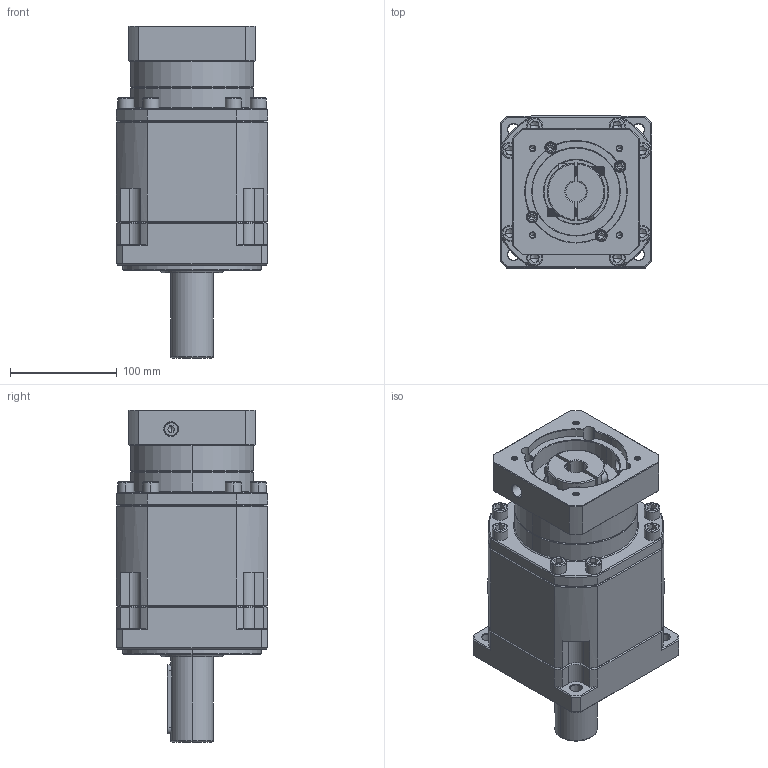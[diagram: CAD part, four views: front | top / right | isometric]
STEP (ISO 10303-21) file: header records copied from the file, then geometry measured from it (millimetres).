
FILE_DESCRIPTION (( 'STEP AP214' ), '1' );
FILE_NAME ('ZB142A-D40-L3-19-95-115-M6.step', '2023-03-18T07:05:32', ( '' ), ( '' ), 'SwSTEP 2.0', 'SolidWorks 2016', '' );
FILE_SCHEMA (( 'AUTOMOTIVE_DESIGN' ));
Length unit declared in the file: millimetre
Products named in the file (1): ZB142A-D40-L3-19-95-115-M6
Bounding box: 142 x 142 x 310.7 mm (x, y, z)
Volume: 3613232 mm3; surface area: 251144.9 mm2
Topology: 6 solids, 6 shells, 2281 faces, 5891 edges, 3727 vertices
Faces by surface type: plane 1025, cylinder 489, cone 402, bspline 327, torus 38
Entity records: 119769 total; most frequent: CARTESIAN_POINT 41717, ORIENTED_EDGE 11674, DIRECTION 9924, EDGE_CURVE 5837, VERTEX_POINT 3727, VECTOR 3592, LINE 3592, AXIS2_PLACEMENT_3D 3166
